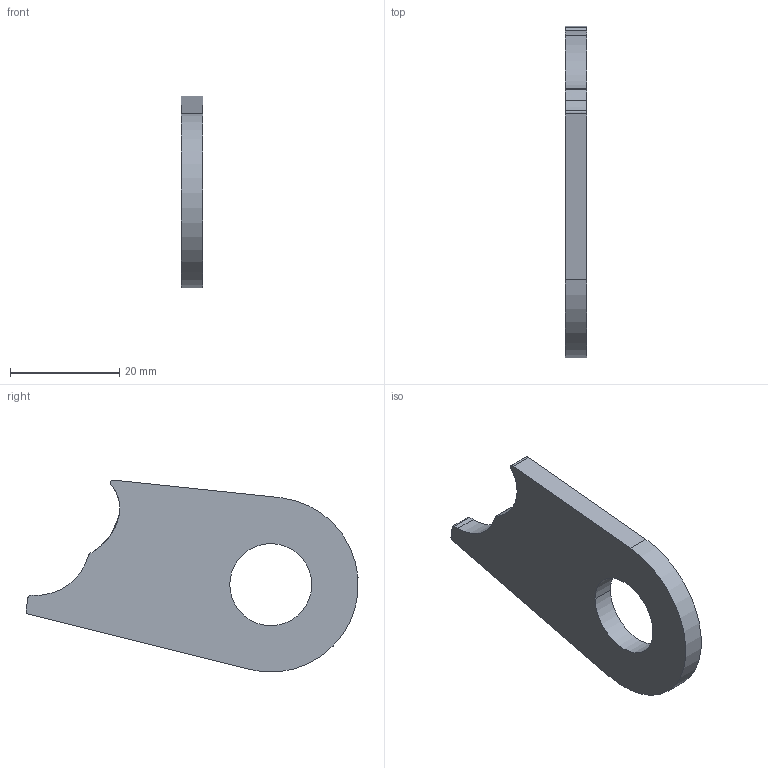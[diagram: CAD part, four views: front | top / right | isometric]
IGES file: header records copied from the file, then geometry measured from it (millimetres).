
Start section: START RECORD GO HERE.
Global section: file name: 20M_EN_06131 (Chape PE Gaut Haut 1).igs; native system: IBM CATIA IGES - CATIA Version 5 Release 19 ; preprocessor: CATIA Version 5 Release 19 ; author: mik75; organization: LAPTOP-SUH344G9; date: 20200110.161433; units: millimetre
Bounding box: 4 x 60.71 x 35.06 mm (x, y, z)
Surface area: 3310.4 mm2 (no closed solid volume)
Topology: 0 solids, 0 shells, 19 faces, 108 edges, 108 vertices
Faces by surface type: revolution 9, plane 5, extrusion 5
